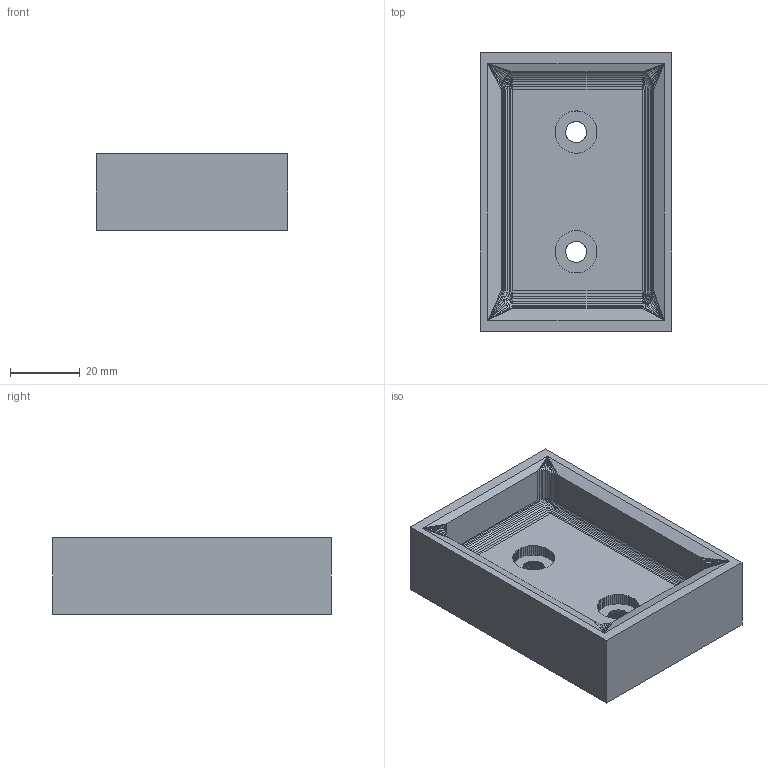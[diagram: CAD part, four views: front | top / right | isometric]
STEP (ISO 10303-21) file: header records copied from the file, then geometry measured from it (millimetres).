
FILE_DESCRIPTION(/* description */ (''),/* implementation_level */ '2;1');
FILE_NAME(/* name */ 'C:/Users/schwa/OneDrive - LED-MARTIN GmbH/eCommerce/Produktdetails/3D_Daten/Nightstick/Halterung_2_Leo_Steinhauser.step',/* time_stamp */ '2022-06-09T13:34:50+02:00',/* author */ (''),/* organization */ (''),/* preprocessor_version */ 'ST-DEVELOPER v19',/* originating_system */ 'Autodesk Translation Framework v11.7.0.108',/* authorisation */ '');
FILE_SCHEMA (('AUTOMOTIVE_DESIGN { 1 0 10303 214 3 1 1 }'));
Length unit declared in the file: millimetre
Products named in the file (1): Halterung_2_Leo_Steinhauser
Bounding box: 54.96 x 80 x 22 mm (x, y, z)
Volume: 56371.7 mm3; surface area: 17440.1 mm2
Topology: 1 solids, 1 shells, 1165 faces, 2176 edges, 1016 vertices
Faces by surface type: plane 1165
Entity records: 26646 total; most frequent: DIRECTION 4508, CARTESIAN_POINT 4358, ORIENTED_EDGE 4352, LINE 2176, VECTOR 2176, EDGE_CURVE 2176, EDGE_LOOP 1172, AXIS2_PLACEMENT_3D 1166
